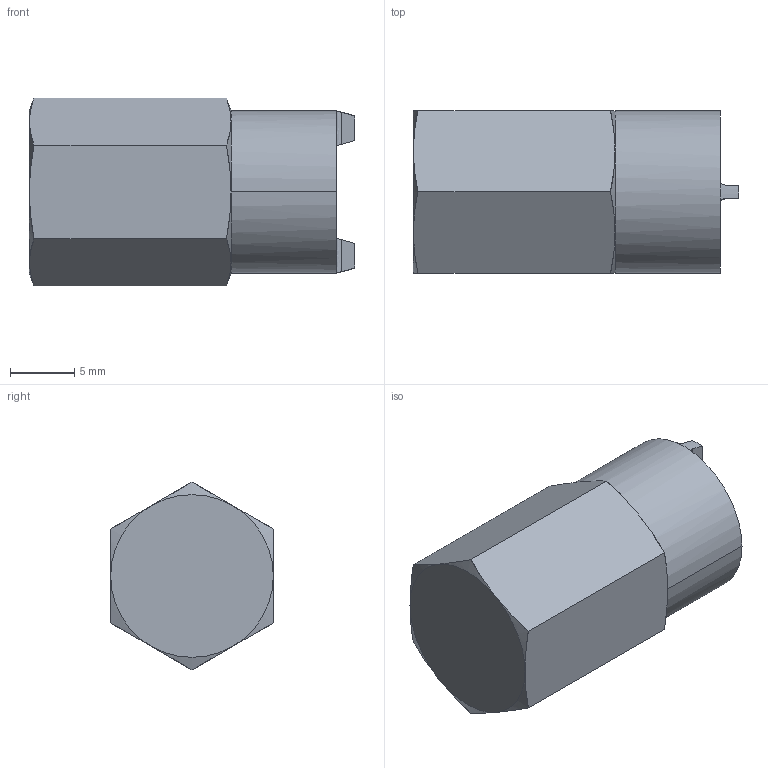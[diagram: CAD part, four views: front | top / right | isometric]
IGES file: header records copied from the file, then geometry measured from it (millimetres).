
Start section:  PTC IGES file: vw-60.igs
Global section: file name: vw-60.igs; native system: Pro/ENGINEER by Parametric Technology Corporation; preprocessor: 2002350; author: chant; organization: Unknown; date: 070702.164237; units: inch
Bounding box: 25.4 x 12.7 x 14.66 mm (x, y, z)
Surface area: 1561 mm2 (no closed solid volume)
Topology: 0 solids, 0 shells, 42 faces, 289 edges, 381 vertices
Faces by surface type: revolution 27, bspline 15
